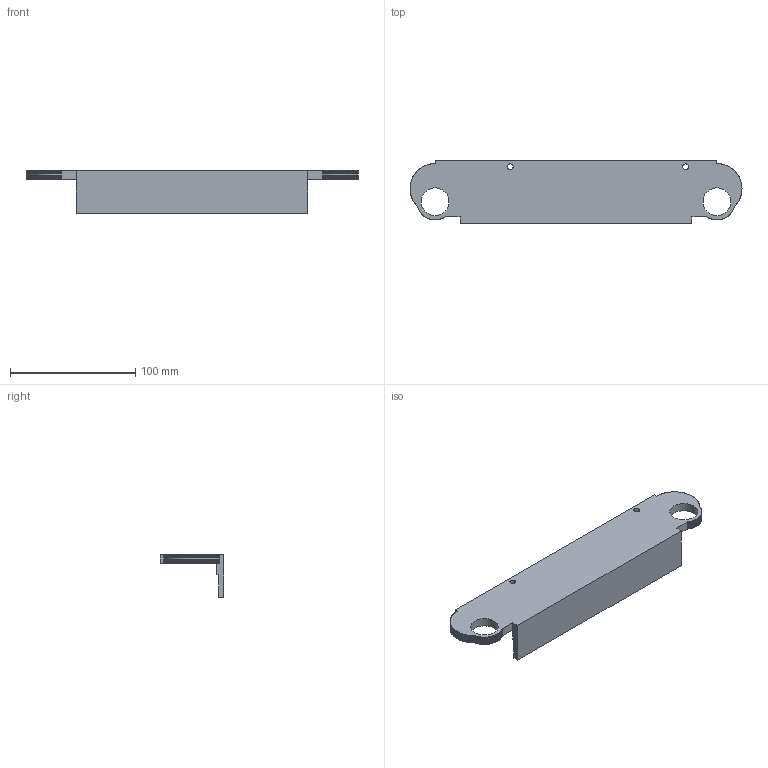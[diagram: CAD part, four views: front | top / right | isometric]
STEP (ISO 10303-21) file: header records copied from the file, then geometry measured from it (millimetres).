
FILE_DESCRIPTION(('Open CASCADE Model'),'2;1');
FILE_NAME('Open CASCADE Shape Model','2026-10-15T02:45:44',('Author'),( 'Open CASCADE'),'Open CASCADE STEP processor 7.9','Open CASCADE 7.9' ,'Unknown');
FILE_SCHEMA(('AUTOMOTIVE_DESIGN { 1 0 10303 214 1 1 1 1 }'));
Length unit declared in the file: millimetre
Products named in the file (1): Open CASCADE STEP translator 7.9 4
Bounding box: 265 x 50.34 x 34 mm (x, y, z)
Volume: 104129.2 mm3; surface area: 39004.2 mm2
Topology: 1 solids, 1 shells, 282 faces, 838 edges, 558 vertices
Faces by surface type: plane 278, cylinder 4
Full cylindrical faces by diameter (mm): 4.5 x2, 22.2 x2
Entity records: 20174 total; most frequent: CARTESIAN_POINT 3355, DIRECTION 3088, LINE 2498, VECTOR 2498, ORIENTED_EDGE 1676, PCURVE 1676, DEFINITIONAL_REPRESENTATION 1676, EDGE_CURVE 838
